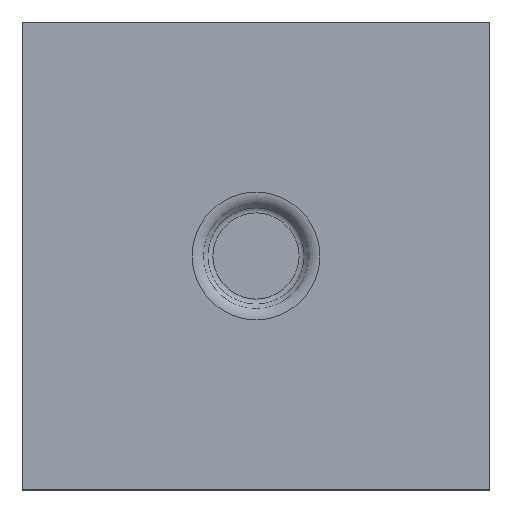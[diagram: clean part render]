
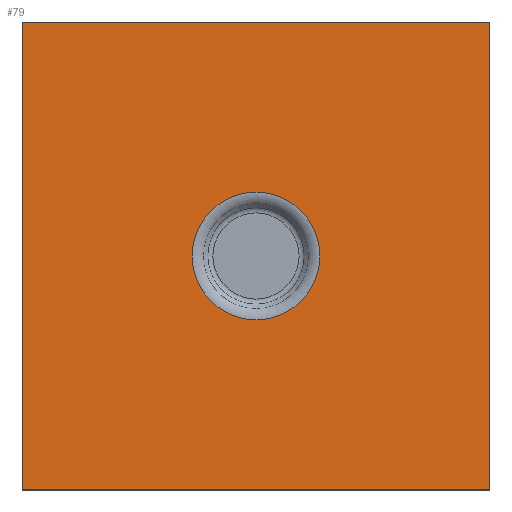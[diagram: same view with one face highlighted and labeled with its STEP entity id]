
A CAD part, top view. The second image highlights one B-rep face of the part: STEP entity #79.
In plain terms, the highlighted planar face has unit normal (0, 0, 1).
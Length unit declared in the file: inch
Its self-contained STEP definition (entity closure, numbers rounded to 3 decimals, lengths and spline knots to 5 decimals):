
#79=ADVANCED_FACE('',(#101,#102),#103,.T.);
#101=FACE_OUTER_BOUND('',#137,.T.);
#102=FACE_BOUND('',#138,.T.);
#103=PLANE('',#139);
#137=EDGE_LOOP('',(#181,#182,#183,#184));
#138=EDGE_LOOP('',(#185));
#139=AXIS2_PLACEMENT_3D('',#186,#187,#188);
#181=ORIENTED_EDGE('',*,*,#248,.T.);
#182=ORIENTED_EDGE('',*,*,#249,.T.);
#183=ORIENTED_EDGE('',*,*,#250,.T.);
#184=ORIENTED_EDGE('',*,*,#251,.T.);
#185=ORIENTED_EDGE('',*,*,#244,.F.);
#186=CARTESIAN_POINT('',(-1.24065,-0.51097,0.036));
#187=DIRECTION('',(0.0,0.0,1.0));
#188=DIRECTION('',(1.0,0.0,0.0));
#244=EDGE_CURVE('',#264,#264,#265,.T.);
#248=EDGE_CURVE('',#272,#273,#274,.F.);
#249=EDGE_CURVE('',#273,#275,#276,.F.);
#250=EDGE_CURVE('',#275,#277,#278,.F.);
#251=EDGE_CURVE('',#277,#272,#279,.F.);
#264=VERTEX_POINT('',#300);
#265=CIRCLE('',#301,0.27284);
#272=VERTEX_POINT('',#308);
#273=VERTEX_POINT('',#309);
#274=LINE('',#310,#311);
#275=VERTEX_POINT('',#312);
#276=LINE('',#313,#314);
#277=VERTEX_POINT('',#315);
#278=LINE('',#316,#317);
#279=LINE('',#318,#319);
#300=CARTESIAN_POINT('',(-0.96781,-0.51097,0.036));
#301=AXIS2_PLACEMENT_3D('',#348,#349,#350);
#308=CARTESIAN_POINT('',(-0.24065,-1.51097,0.036));
#309=CARTESIAN_POINT('',(-0.24065,0.48903,0.036));
#310=CARTESIAN_POINT('',(-0.24065,-0.51097,0.036));
#311=VECTOR('',#360,1.0);
#312=CARTESIAN_POINT('',(-2.24065,0.48903,0.036));
#313=CARTESIAN_POINT('',(-1.24065,0.48903,0.036));
#314=VECTOR('',#361,1.0);
#315=CARTESIAN_POINT('',(-2.24065,-1.51097,0.036));
#316=CARTESIAN_POINT('',(-2.24065,-0.51097,0.036));
#317=VECTOR('',#362,1.0);
#318=CARTESIAN_POINT('',(-1.24065,-1.51097,0.036));
#319=VECTOR('',#363,1.0);
#348=CARTESIAN_POINT('',(-1.24065,-0.51097,0.036));
#349=DIRECTION('',(0.0,0.0,1.0));
#350=DIRECTION('',(1.0,0.0,0.0));
#360=DIRECTION('',(0.0,-1.0,0.0));
#361=DIRECTION('',(1.0,0.0,0.0));
#362=DIRECTION('',(0.0,1.0,0.0));
#363=DIRECTION('',(-1.0,0.0,0.0));
